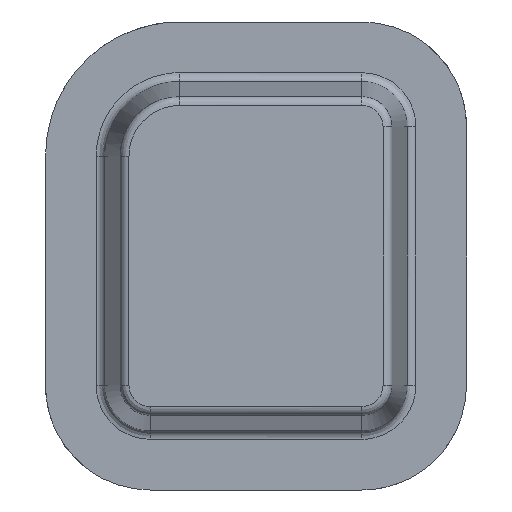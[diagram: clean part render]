
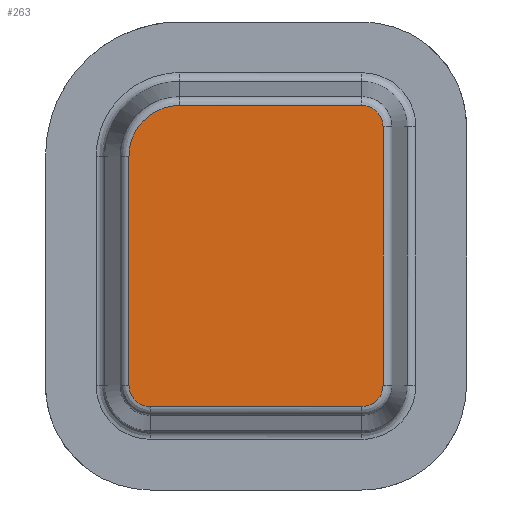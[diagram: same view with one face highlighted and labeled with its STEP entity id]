
A CAD part, front view. The second image highlights one B-rep face of the part: STEP entity #263.
In plain terms, the highlighted planar face has unit normal (0, -1, 0).
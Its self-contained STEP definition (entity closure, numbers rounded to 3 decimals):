
#144=CARTESIAN_POINT('Axis2P3D Location',(47.08,0.,52.92)) ;
#149=CARTESIAN_POINT('Line Origine',(2.749,0.,49.)) ;
#153=CARTESIAN_POINT('Vertex',(2.749,0.,88.)) ;
#155=CARTESIAN_POINT('Vertex',(2.749,0.,10.)) ;
#159=CARTESIAN_POINT('Control Point',(2.749,0.,10.)) ;
#160=CARTESIAN_POINT('Control Point',(2.749,0.,9.038)) ;
#161=CARTESIAN_POINT('Control Point',(2.908,0.,8.077)) ;
#162=CARTESIAN_POINT('Control Point',(3.227,0.,7.152)) ;
#163=CARTESIAN_POINT('Control Point',(4.158,0.,5.442)) ;
#164=CARTESIAN_POINT('Control Point',(5.589,0.,4.124)) ;
#165=CARTESIAN_POINT('Control Point',(6.409,0.,3.59)) ;
#166=CARTESIAN_POINT('Control Point',(7.6,0.,3.072)) ;
#167=CARTESIAN_POINT('Control Point',(8.861,0.,2.828)) ;
#168=CARTESIAN_POINT('Control Point',(9.18,0.,2.785)) ;
#169=CARTESIAN_POINT('Control Point',(9.536,0.,2.756)) ;
#170=CARTESIAN_POINT('Control Point',(9.892,0.,2.75)) ;
#171=CARTESIAN_POINT('Control Point',(9.928,0.,2.749)) ;
#172=CARTESIAN_POINT('Control Point',(9.964,0.,2.749)) ;
#173=CARTESIAN_POINT('Control Point',(10.,0.,2.749)) ;
#174=CARTESIAN_POINT('Vertex',(10.,0.,2.749)) ;
#177=CARTESIAN_POINT('Line Origine',(46.,0.,2.749)) ;
#181=CARTESIAN_POINT('Vertex',(82.,0.,2.749)) ;
#185=CARTESIAN_POINT('Control Point',(82.,0.,2.749)) ;
#186=CARTESIAN_POINT('Control Point',(82.962,0.,2.749)) ;
#187=CARTESIAN_POINT('Control Point',(83.923,0.,2.908)) ;
#188=CARTESIAN_POINT('Control Point',(84.848,0.,3.227)) ;
#189=CARTESIAN_POINT('Control Point',(86.558,0.,4.158)) ;
#190=CARTESIAN_POINT('Control Point',(87.876,0.,5.589)) ;
#191=CARTESIAN_POINT('Control Point',(88.41,0.,6.409)) ;
#192=CARTESIAN_POINT('Control Point',(88.928,0.,7.6)) ;
#193=CARTESIAN_POINT('Control Point',(89.172,0.,8.861)) ;
#194=CARTESIAN_POINT('Control Point',(89.215,0.,9.18)) ;
#195=CARTESIAN_POINT('Control Point',(89.244,0.,9.536)) ;
#196=CARTESIAN_POINT('Control Point',(89.25,0.,9.892)) ;
#197=CARTESIAN_POINT('Control Point',(89.251,0.,9.928)) ;
#198=CARTESIAN_POINT('Control Point',(89.251,0.,9.964)) ;
#199=CARTESIAN_POINT('Control Point',(89.251,0.,10.)) ;
#200=CARTESIAN_POINT('Vertex',(89.251,0.,10.)) ;
#203=CARTESIAN_POINT('Line Origine',(89.251,0.,54.)) ;
#207=CARTESIAN_POINT('Vertex',(89.251,0.,98.)) ;
#211=CARTESIAN_POINT('Control Point',(89.251,0.,98.)) ;
#212=CARTESIAN_POINT('Control Point',(89.251,0.,98.962)) ;
#213=CARTESIAN_POINT('Control Point',(89.092,0.,99.923)) ;
#214=CARTESIAN_POINT('Control Point',(88.773,0.,100.848)) ;
#215=CARTESIAN_POINT('Control Point',(87.842,0.,102.558)) ;
#216=CARTESIAN_POINT('Control Point',(86.411,0.,103.876)) ;
#217=CARTESIAN_POINT('Control Point',(85.591,0.,104.41)) ;
#218=CARTESIAN_POINT('Control Point',(84.4,0.,104.928)) ;
#219=CARTESIAN_POINT('Control Point',(83.139,0.,105.172)) ;
#220=CARTESIAN_POINT('Control Point',(82.82,0.,105.215)) ;
#221=CARTESIAN_POINT('Control Point',(82.464,0.,105.244)) ;
#222=CARTESIAN_POINT('Control Point',(82.108,0.,105.25)) ;
#223=CARTESIAN_POINT('Control Point',(82.072,0.,105.251)) ;
#224=CARTESIAN_POINT('Control Point',(82.036,0.,105.251)) ;
#225=CARTESIAN_POINT('Control Point',(82.,0.,105.251)) ;
#226=CARTESIAN_POINT('Vertex',(82.,0.,105.251)) ;
#229=CARTESIAN_POINT('Line Origine',(51.,0.,105.251)) ;
#233=CARTESIAN_POINT('Vertex',(20.,0.,105.251)) ;
#237=CARTESIAN_POINT('Control Point',(20.,0.,105.251)) ;
#238=CARTESIAN_POINT('Control Point',(18.077,0.,105.251)) ;
#239=CARTESIAN_POINT('Control Point',(16.154,0.,104.983)) ;
#240=CARTESIAN_POINT('Control Point',(14.282,0.,104.447)) ;
#241=CARTESIAN_POINT('Control Point',(10.736,0.,102.869)) ;
#242=CARTESIAN_POINT('Control Point',(7.757,0.,100.382)) ;
#243=CARTESIAN_POINT('Control Point',(6.451,0.,98.938)) ;
#244=CARTESIAN_POINT('Control Point',(4.493,0.,96.045)) ;
#245=CARTESIAN_POINT('Control Point',(3.313,0.,92.767)) ;
#246=CARTESIAN_POINT('Control Point',(2.954,0.,91.258)) ;
#247=CARTESIAN_POINT('Control Point',(2.762,0.,89.684)) ;
#248=CARTESIAN_POINT('Control Point',(2.749,0.,88.109)) ;
#249=CARTESIAN_POINT('Control Point',(2.749,0.,88.072)) ;
#250=CARTESIAN_POINT('Control Point',(2.749,0.,88.036)) ;
#251=CARTESIAN_POINT('Control Point',(2.749,0.,88.)) ;
#145=DIRECTION('Axis2P3D Direction',(0.,-1.,0.)) ;
#146=DIRECTION('Axis2P3D XDirection',(0.168,0.,0.986)) ;
#150=DIRECTION('Vector Direction',(0.,0.,1.)) ;
#178=DIRECTION('Vector Direction',(1.,0.,0.)) ;
#204=DIRECTION('Vector Direction',(0.,0.,1.)) ;
#230=DIRECTION('Vector Direction',(-1.,0.,0.)) ;
#147=AXIS2_PLACEMENT_3D('Plane Axis2P3D',#144,#145,#146) ;
#254=ORIENTED_EDGE('',*,*,#157,.T.) ;
#255=ORIENTED_EDGE('',*,*,#176,.T.) ;
#256=ORIENTED_EDGE('',*,*,#183,.T.) ;
#257=ORIENTED_EDGE('',*,*,#202,.T.) ;
#258=ORIENTED_EDGE('',*,*,#209,.T.) ;
#259=ORIENTED_EDGE('',*,*,#228,.T.) ;
#260=ORIENTED_EDGE('',*,*,#235,.T.) ;
#261=ORIENTED_EDGE('',*,*,#252,.T.) ;
#151=VECTOR('Line Direction',#150,1.) ;
#179=VECTOR('Line Direction',#178,1.) ;
#205=VECTOR('Line Direction',#204,1.) ;
#231=VECTOR('Line Direction',#230,1.) ;
#263=ADVANCED_FACE('base',(#262),#148,.T.) ;
#158=B_SPLINE_CURVE_WITH_KNOTS('',5,(#159,#160,#161,#162,#163,#164,#165,#166,#167,#168,#169,#170,#171,#172,#173),.UNSPECIFIED.,.F.,.U.,(6,3,3,3,6),(26.598,36.55,46.507,49.825,50.197),.UNSPECIFIED.) ;
#184=B_SPLINE_CURVE_WITH_KNOTS('',5,(#185,#186,#187,#188,#189,#190,#191,#192,#193,#194,#195,#196,#197,#198,#199),.UNSPECIFIED.,.F.,.U.,(6,3,3,3,6),(26.598,36.55,46.507,49.826,50.198),.UNSPECIFIED.) ;
#210=B_SPLINE_CURVE_WITH_KNOTS('',5,(#211,#212,#213,#214,#215,#216,#217,#218,#219,#220,#221,#222,#223,#224,#225),.UNSPECIFIED.,.F.,.U.,(6,3,3,3,6),(26.597,36.549,46.506,49.825,50.197),.UNSPECIFIED.) ;
#236=B_SPLINE_CURVE_WITH_KNOTS('',5,(#237,#238,#239,#240,#241,#242,#243,#244,#245,#246,#247,#248,#249,#250,#251),.UNSPECIFIED.,.F.,.U.,(6,3,3,3,6),(38.668,54.698,70.746,83.576,83.878),.UNSPECIFIED.) ;
#157=EDGE_CURVE('',#154,#156,#152,.F.) ;
#176=EDGE_CURVE('',#156,#175,#158,.T.) ;
#183=EDGE_CURVE('',#175,#182,#180,.T.) ;
#202=EDGE_CURVE('',#182,#201,#184,.T.) ;
#209=EDGE_CURVE('',#201,#208,#206,.T.) ;
#228=EDGE_CURVE('',#208,#227,#210,.T.) ;
#235=EDGE_CURVE('',#227,#234,#232,.T.) ;
#252=EDGE_CURVE('',#234,#154,#236,.T.) ;
#253=EDGE_LOOP('',(#254,#255,#256,#257,#258,#259,#260,#261)) ;
#262=FACE_OUTER_BOUND('',#253,.T.) ;
#152=LINE('Line',#149,#151) ;
#180=LINE('Line',#177,#179) ;
#206=LINE('Line',#203,#205) ;
#232=LINE('Line',#229,#231) ;
#148=PLANE('',#147) ;
#154=VERTEX_POINT('',#153) ;
#156=VERTEX_POINT('',#155) ;
#175=VERTEX_POINT('',#174) ;
#182=VERTEX_POINT('',#181) ;
#201=VERTEX_POINT('',#200) ;
#208=VERTEX_POINT('',#207) ;
#227=VERTEX_POINT('',#226) ;
#234=VERTEX_POINT('',#233) ;
